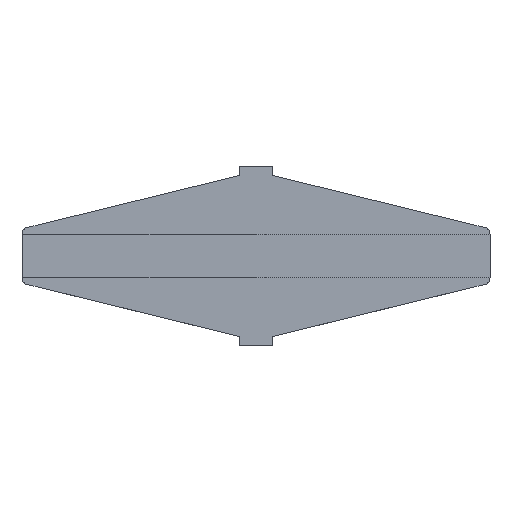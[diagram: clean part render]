
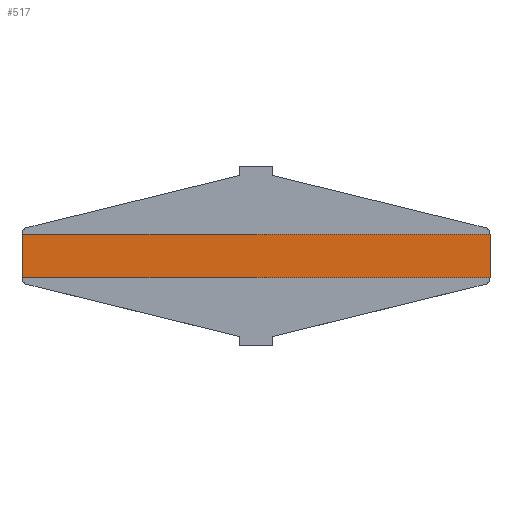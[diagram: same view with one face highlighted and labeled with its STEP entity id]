
A CAD part, top view. The second image highlights one B-rep face of the part: STEP entity #517.
In plain terms, the highlighted planar face has unit normal (0, 0, 1).
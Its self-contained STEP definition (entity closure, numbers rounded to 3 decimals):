
#13 = DIRECTION ( 'NONE',  ( 0., -1., 0. ) ) ;
#46 = EDGE_CURVE ( 'NONE', #838, #1079, #1025, .T. ) ;
#127 = FACE_OUTER_BOUND ( 'NONE', #975, .T. ) ;
#148 = LINE ( 'NONE', #754, #557 ) ;
#164 = PLANE ( 'NONE',  #963 ) ;
#168 = DIRECTION ( 'NONE',  ( 1., 0., 0. ) ) ;
#216 = CARTESIAN_POINT ( 'NONE',  ( -107.5, -10., 9.5 ) ) ;
#234 = EDGE_CURVE ( 'NONE', #629, #838, #1097, .T. ) ;
#360 = DIRECTION ( 'NONE',  ( -1., 0., 0. ) ) ;
#453 = CARTESIAN_POINT ( 'NONE',  ( -107.5, -10., 9.5 ) ) ;
#458 = ORIENTED_EDGE ( 'NONE', *, *, #46, .T. ) ;
#465 = EDGE_CURVE ( 'NONE', #1079, #893, #148, .T. ) ;
#500 = CARTESIAN_POINT ( 'NONE',  ( 107.5, -10., 9.5 ) ) ;
#517 = ADVANCED_FACE ( 'NONE', ( #127 ), #164, .F. ) ;
#557 = VECTOR ( 'NONE', #168, 1000. ) ;
#585 = CARTESIAN_POINT ( 'NONE',  ( -107.5, 10., 9.5 ) ) ;
#587 = VECTOR ( 'NONE', #1094, 1000. ) ;
#597 = VECTOR ( 'NONE', #672, 1000. ) ;
#629 = VERTEX_POINT ( 'NONE', #778 ) ;
#672 = DIRECTION ( 'NONE',  ( -1., 0., 0. ) ) ;
#737 = VECTOR ( 'NONE', #13, 1000. ) ;
#749 = CARTESIAN_POINT ( 'NONE',  ( 0., 0., 9.5 ) ) ;
#754 = CARTESIAN_POINT ( 'NONE',  ( -107.5, -10., 9.5 ) ) ;
#755 = EDGE_CURVE ( 'NONE', #893, #629, #1063, .T. ) ;
#761 = ORIENTED_EDGE ( 'NONE', *, *, #234, .T. ) ;
#762 = CARTESIAN_POINT ( 'NONE',  ( 107.5, -10., 9.5 ) ) ;
#778 = CARTESIAN_POINT ( 'NONE',  ( 107.5, 10., 9.5 ) ) ;
#838 = VERTEX_POINT ( 'NONE', #839 ) ;
#839 = CARTESIAN_POINT ( 'NONE',  ( -107.5, 10., 9.5 ) ) ;
#854 = DIRECTION ( 'NONE',  ( 0., 0., -1. ) ) ;
#893 = VERTEX_POINT ( 'NONE', #762 ) ;
#963 = AXIS2_PLACEMENT_3D ( 'NONE', #749, #854, #360 ) ;
#975 = EDGE_LOOP ( 'NONE', ( #1066, #761, #458, #1078 ) ) ;
#1025 = LINE ( 'NONE', #453, #737 ) ;
#1063 = LINE ( 'NONE', #500, #587 ) ;
#1066 = ORIENTED_EDGE ( 'NONE', *, *, #755, .T. ) ;
#1078 = ORIENTED_EDGE ( 'NONE', *, *, #465, .T. ) ;
#1079 = VERTEX_POINT ( 'NONE', #216 ) ;
#1094 = DIRECTION ( 'NONE',  ( 0., 1., 0. ) ) ;
#1097 = LINE ( 'NONE', #585, #597 ) ;
